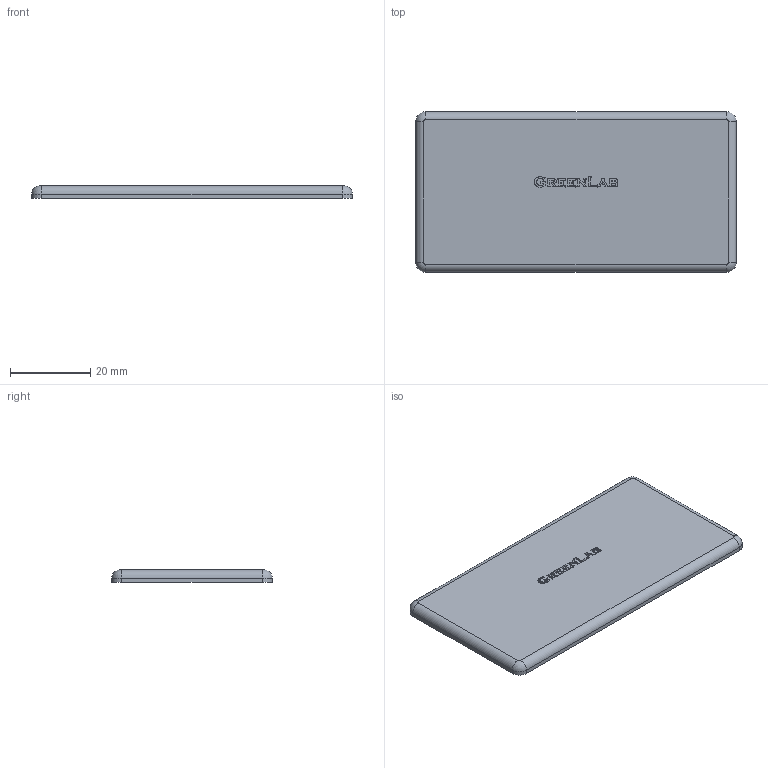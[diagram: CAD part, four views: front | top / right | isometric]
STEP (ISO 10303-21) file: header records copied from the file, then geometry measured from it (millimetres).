
FILE_DESCRIPTION (( 'STEP AP214' ), '1' );
FILE_NAME ('1.1064 Päätysuoja 40X80 musta.STEP', '2025-09-03T08:55:09', ( '' ), ( '' ), 'SwSTEP 2.0', 'SolidWorks 2025', '' );
FILE_SCHEMA (( 'AUTOMOTIVE_DESIGN' ));
Length unit declared in the file: millimetre
Products named in the file (1): 1.1064 Päätysuoja 40X80 musta
Bounding box: 80 x 40 x 3 mm (x, y, z)
Volume: 9373.2 mm3; surface area: 6946 mm2
Topology: 1 solids, 1 shells, 240 faces, 670 edges, 444 vertices
Faces by surface type: plane 143, bspline 85, cylinder 8, torus 4
Entity records: 10295 total; most frequent: CARTESIAN_POINT 4672, ORIENTED_EDGE 1340, DIRECTION 832, EDGE_CURVE 670, LINE 480, VECTOR 480, VERTEX_POINT 444, EDGE_LOOP 252
